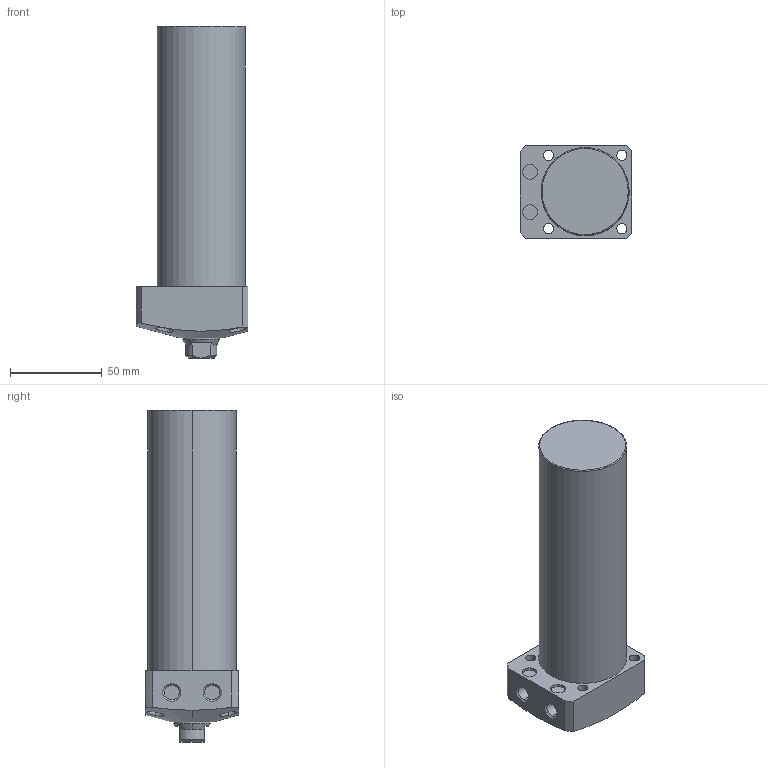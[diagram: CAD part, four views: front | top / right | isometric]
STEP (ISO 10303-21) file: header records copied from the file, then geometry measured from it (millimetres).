
FILE_DESCRIPTION (( 'STEP AP203' ), '1' );
FILE_NAME ('CLL-048CA-115.STEP', '2019-12-21T07:09:14', ( '' ), ( '' ), 'SwSTEP 2.0', 'SolidWorks 2015', '' );
FILE_SCHEMA (( 'CONFIG_CONTROL_DESIGN' ));
Length unit declared in the file: millimetre
Products named in the file (1): CLL-048CA-115
Bounding box: 61 x 51 x 181 mm (x, y, z)
Volume: 331157.5 mm3; surface area: 36189.5 mm2
Topology: 1 solids, 1 shells, 74 faces, 170 edges, 107 vertices
Faces by surface type: cylinder 35, plane 22, cone 15, torus 2
Entity records: 2535 total; most frequent: CARTESIAN_POINT 748, DIRECTION 374, ORIENTED_EDGE 336, EDGE_CURVE 168, AXIS2_PLACEMENT_3D 155, VERTEX_POINT 107, EDGE_LOOP 93, CIRCLE 80
